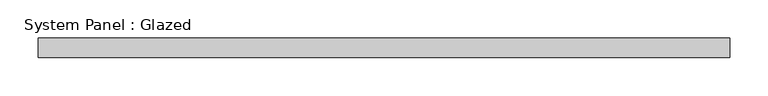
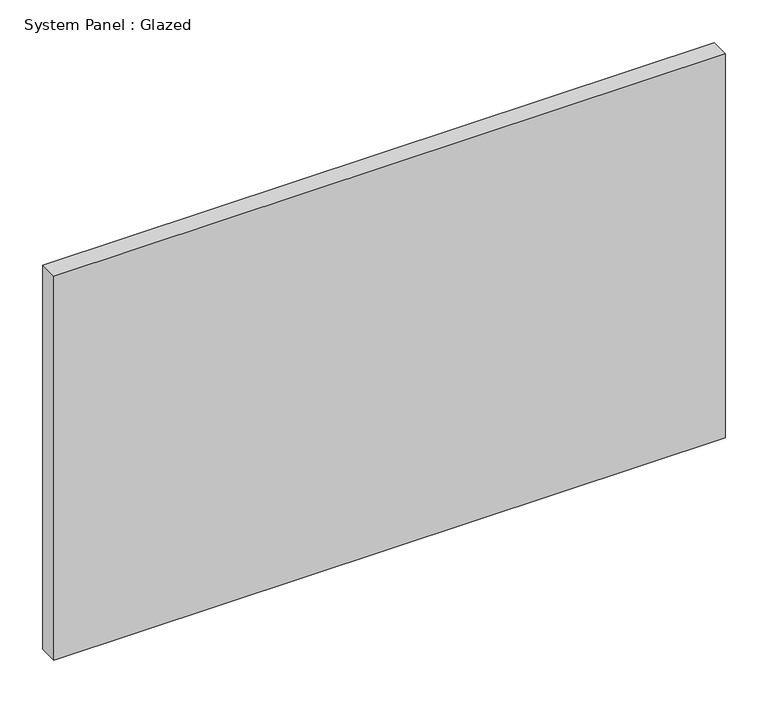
"""IFC4 building model written with IfcOpenShell, lengths in millimetres: plate geometry, System Panel : Glazed."""

from ifc_helpers import new_model, si_unit, origin, origin_with_axes, place, context, project, spatial, polyline, outline, extrude, source, transform, mapped, element, save


def system_panel_glazed_f4e0d20e(model_context):
    return source(origin(), model_context, "Body", "SweptSolid", [
        extrude(outline(polyline([(451.4628531, 19.05), (-451.4628531, 19.05), (-451.4628531, 44.45), (451.4628531, 44.45), (451.4628531, 19.05)])), origin_with_axes(), (0.0, 0.0, 1.0), 546.1),
    ])


if __name__ == "__main__":
    model = new_model("IFC4")
    model_context = context("Model", 3, world=origin())
    ifc_project = project(units=[si_unit("LENGTHUNIT", "METRE", prefix="MILLI")], contexts=[model_context])
    site = spatial("IfcSite", under=ifc_project)
    building = spatial("IfcBuilding", under=site)
    placement = place(None, origin())
    system_panel_glazed_shape = system_panel_glazed_f4e0d20e(model_context)
    element("IfcPlate", 1, ObjectType="System Panel : Glazed", at=placement, inside=building, context=model_context, shape_type="MappedRepresentation", body=[
        mapped(system_panel_glazed_shape, transform((0.0, 0.0, 0.0), x_axis=(1.0, 0.0, 0.0), y_axis=(0.0, 1.0, 0.0), z_axis=(0.0, 0.0, 1.0))),
    ])
    save(model, "model.ifc")
